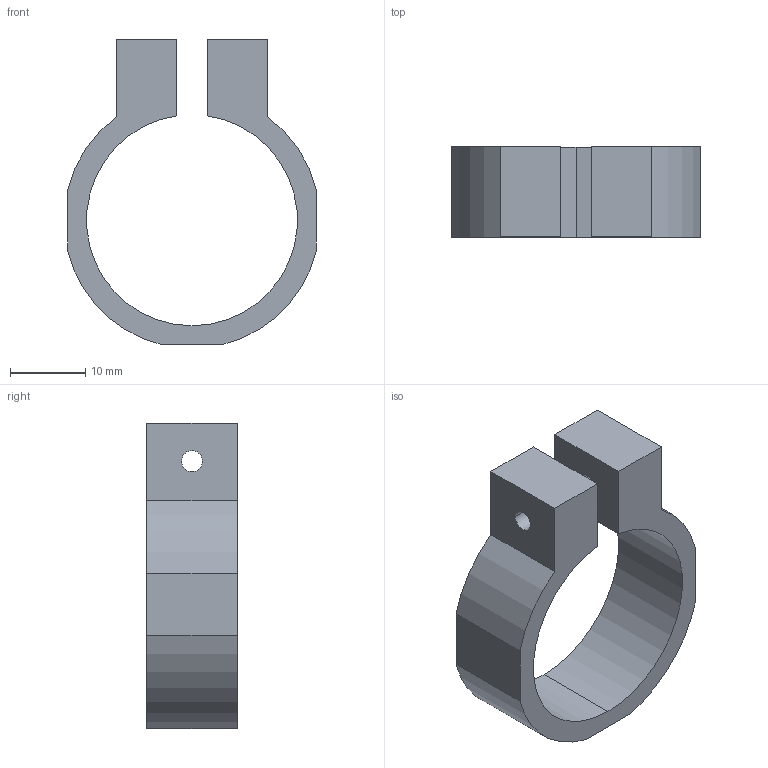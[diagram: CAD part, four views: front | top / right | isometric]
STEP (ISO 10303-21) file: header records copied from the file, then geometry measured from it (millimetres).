
FILE_DESCRIPTION (( 'STEP AP214' ), '1' );
FILE_NAME ('PJ-506.STEP', '2023-09-12T11:16:03', ( 'catia' ), ( 'HP Inc.' ), 'SwSTEP 2.0', 'SolidWorks 2021', '' );
FILE_SCHEMA (( 'AUTOMOTIVE_DESIGN' ));
Length unit declared in the file: millimetre
Products named in the file (1): PJ-506
Bounding box: 33 x 12 x 40.5 mm (x, y, z)
Volume: 4756 mm3; surface area: 3636.4 mm2
Topology: 1 solids, 1 shells, 21 faces, 57 edges, 38 vertices
Faces by surface type: plane 11, cylinder 10
Entity records: 713 total; most frequent: DIRECTION 121, CARTESIAN_POINT 117, ORIENTED_EDGE 114, EDGE_CURVE 57, AXIS2_PLACEMENT_3D 42, VERTEX_POINT 38, LINE 37, VECTOR 37
